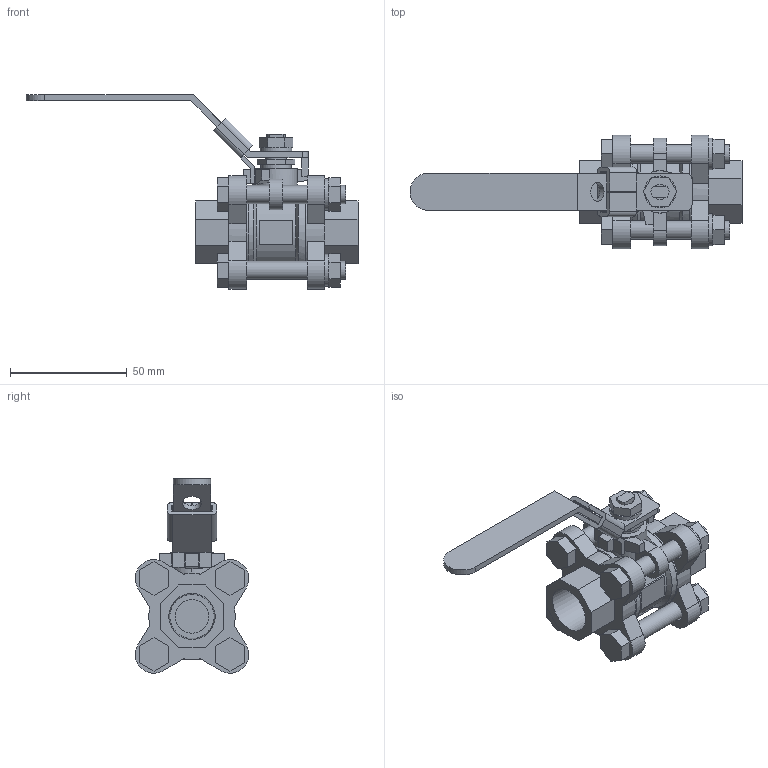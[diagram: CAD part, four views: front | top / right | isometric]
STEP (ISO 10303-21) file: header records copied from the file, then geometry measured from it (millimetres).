
FILE_DESCRIPTION((' '),'2;1');
FILE_NAME('N:\Technical Support\Private\Jomar Valve CAD\Ball Valves\CS and SS\1000N-4B\.5 T-CS[SS]-1000N-4B (500-403 [500-303])FusionCopy.stp.step','2017-05-24T11:44:15',(' '),(' '),' ','ACIS',' ');
FILE_SCHEMA(('CONFIG_CONTROL_DESIGN'));
Length unit declared in the file: inch
Products named in the file (22): N:\Technical Support\Private\Jomar Valve CAD\Ball Valves\CS and SS\1000N-4B\.5 T-CS[SS]-1000N-4B (500-403 [500-303])FusionCopy.stp.step; Body1; Body2; Body3; Body4; Body5; Body6; Body7; Body8; Body9; Body10; Body11; Body12; Body13; Body14; Body15; Body16; Body17; Body18; Body19; Body20; Body21
Assembly tree (21 placements, depth 2):
  N:\Technical Support\Private\Jomar Valve CAD\Ball Valves\CS and SS\1000N-4B\.5 T-CS[SS]-1000N-4B (500-403 [500-303])FusionCopy.stp.step
    Body1
    Body2
    Body3
    Body4
    Body5
    Body6
    Body7
    Body8
    Body9
    Body10
    Body11
    Body12
    Body13
    Body14
    Body15
    Body16
    Body17
    Body18
    Body19
    Body20
    Body21
Bounding box: 142.15 x 48.62 x 83.25 mm (x, y, z)
Volume: 84030.9 mm3; surface area: 41791.5 mm2
Topology: 21 solids, 21 shells, 309 faces, 773 edges, 504 vertices
Faces by surface type: plane 161, bspline 96, cylinder 50, cone 2
Full cylindrical faces by diameter (mm): 6.68 x3, 7.798 x2, 8.128 x1, 8.255 x3, 8.89 x3, 9.017 x5, 13.03 x1, 13.665 x3, 14.351 x1, 18.161 x1, 36.957 x3
Entity records: 12305 total; most frequent: CARTESIAN_POINT 2175, ORIENTED_EDGE 1406, DIRECTION 1386, EDGE_CURVE 703, VECTOR 510, LINE 510, VERTEX_POINT 483, AXIS2_PLACEMENT_3D 438
